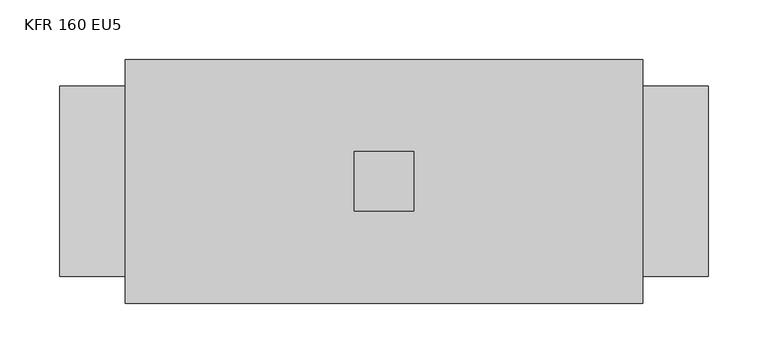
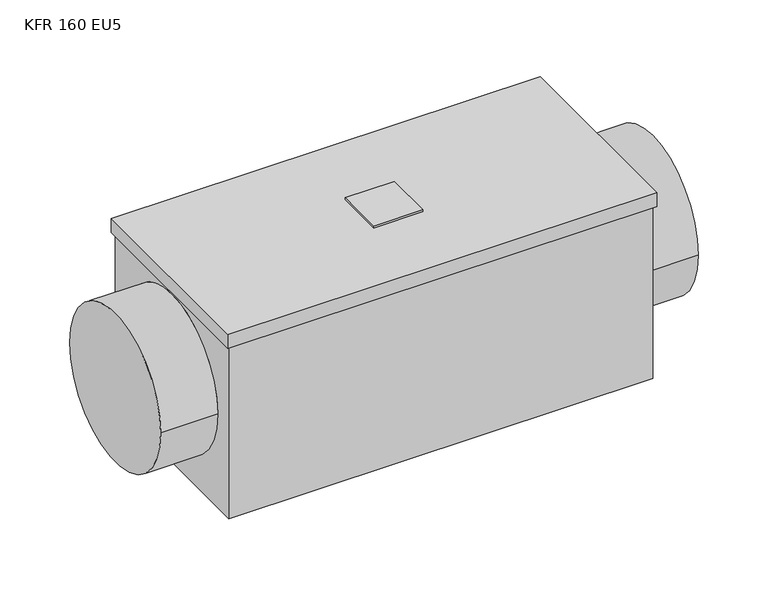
"""IFC4 building model written with IfcOpenShell, lengths in millimetres: damper geometry, KORF_Фильтр_Карманный_Круглый_KFR : KFR 160 EU5."""

from ifc_helpers import new_model, si_unit, frame, origin, place, context, project, spatial, polyline, circle_curve, outline, extrude, source, transform, mapped, element, save
from ifc_brep_helpers import plane_surface, cylinder_surface, advanced_brep


def kfr_160_eu5_75ced821(model_context):
    return source(origin(), model_context, "Body", "SolidModel", [
        extrude(outline(polyline([(247.5, -25.0), (247.5, 25.0), (297.5, 25.0), (297.5, -25.0), (247.5, -25.0)])), frame((0.0, 0.0, 100.0), z_axis=(0.0, 0.0, 1.0), x_axis=(1.0, 0.0, 0.0)), (0.0, 0.0, 1.0), 2.0),
        advanced_brep(
        [(545.0, -80.0, 0.0), (545.0, 80.0, 0.0), (0.0, -80.0, 0.0), (0.0, 80.0, 0.0), (487.5, -80.0, 0.0), (487.5, 80.0, 0.0), (57.5, 80.0, 0.0), (57.5, -80.0, 0.0), (487.5, -100.0, -100.0), (487.5, 100.0, -100.0), (487.5, 100.0, 85.0), (487.5, -100.0, 85.0), (57.5, 100.0, -100.0), (57.5, -100.0, -100.0), (57.5, -100.0, 85.0), (57.5, 100.0, 85.0), (490.0, 102.5, 100.0), (55.0, 102.5, 100.0), (55.0, -102.5, 100.0), (490.0, -102.5, 100.0), (490.0, 102.5, 85.0), (490.0, -102.5, 85.0), (55.0, -102.5, 85.0), (55.0, 102.5, 85.0)],
        [
            (0, 1, circle_curve(frame((545.0, 0.0, 0.0), z_axis=(1.0, 0.0, 0.0), x_axis=(0.0, 1.0, 0.0)), 80.0)),
            (1, 0, circle_curve(frame((545.0, 0.0, 0.0), z_axis=(1.0, 0.0, 0.0), x_axis=(0.0, 1.0, 0.0)), 80.0)),
            (2, 3, circle_curve(frame((0.0, 0.0, 0.0), z_axis=(-1.0, 0.0, 0.0), x_axis=(0.0, 1.0, 0.0)), 80.0)),
            (3, 2, circle_curve(frame((0.0, 0.0, 0.0), z_axis=(-1.0, 0.0, 0.0), x_axis=(0.0, 1.0, 0.0)), 80.0)),
            (0, 4),
            (4, 5, circle_curve(frame((487.5, 0.0, 0.0), z_axis=(1.0, 0.0, 0.0), x_axis=(0.0, 1.0, 0.0)), 80.0)),
            (5, 1),
            (3, 6),
            (6, 7, circle_curve(frame((57.5, 0.0, 0.0), z_axis=(-1.0, 0.0, 0.0), x_axis=(0.0, 1.0, 0.0)), 80.0)),
            (7, 2),
            (5, 4, circle_curve(frame((487.5, 0.0, 0.0), z_axis=(1.0, 0.0, 0.0), x_axis=(0.0, 1.0, 0.0)), 80.0)),
            (7, 6, circle_curve(frame((57.5, 0.0, 0.0), z_axis=(-1.0, 0.0, 0.0), x_axis=(0.0, 1.0, 0.0)), 80.0)),
            (8, 9),
            (9, 10),
            (10, 11),
            (11, 8),
            (12, 13),
            (13, 14),
            (14, 15),
            (15, 12),
            (13, 8),
            (11, 14),
            (12, 9),
            (15, 10),
            (16, 17),
            (17, 18),
            (18, 19),
            (19, 16),
            (20, 21),
            (21, 22),
            (22, 23),
            (23, 20),
            (16, 20),
            (23, 17),
            (22, 18),
            (21, 19),
        ],
        [
            plane_surface(frame((545.0, 80.0, 0.0), z_axis=(1.0, 0.0, 0.0), x_axis=(0.0, 0.0, 1.0))),
            plane_surface(frame((0.0, 80.0, 0.0), z_axis=(-1.0, 0.0, 0.0), x_axis=(0.0, 0.0, -1.0))),
            cylinder_surface(frame((0.0, 0.0, 0.0), z_axis=(1.0, 0.0, 0.0), x_axis=(0.0, 1.0, 0.0)), 80.0),
            plane_surface(frame((487.5, -100.0, 100.0), z_axis=(1.0, 0.0, 0.0), x_axis=(0.0, 0.0, -1.0))),
            plane_surface(frame((57.5, -100.0, 100.0), z_axis=(-1.0, 0.0, 0.0), x_axis=(0.0, 0.0, 1.0))),
            plane_surface(frame((487.5, -100.0, 100.0), z_axis=(0.0, -1.0, 0.0), x_axis=(-1.0, 0.0, 0.0))),
            plane_surface(frame((487.5, -100.0, -100.0), z_axis=(0.0, 0.0, -1.0), x_axis=(-1.0, 0.0, 0.0))),
            plane_surface(frame((487.5, 100.0, -100.0), z_axis=(0.0, 1.0, 0.0), x_axis=(-1.0, 0.0, 0.0))),
            plane_surface(frame((487.5, 100.0, 100.0), z_axis=(0.0, 0.0, 1.0), x_axis=(-1.0, 0.0, 0.0))),
            plane_surface(frame((55.0, 102.5, 85.0), z_axis=(0.0, 0.0, -1.0), x_axis=(1.0, 0.0, 0.0))),
            plane_surface(frame((490.0, 102.5, 100.0), z_axis=(0.0, 1.0, 0.0), x_axis=(0.0, 0.0, -1.0))),
            plane_surface(frame((55.0, 102.5, 100.0), z_axis=(-1.0, 0.0, 0.0), x_axis=(0.0, 0.0, -1.0))),
            plane_surface(frame((55.0, -102.5, 100.0), z_axis=(0.0, -1.0, 0.0), x_axis=(0.0, 0.0, -1.0))),
            plane_surface(frame((490.0, -102.5, 100.0), z_axis=(1.0, 0.0, 0.0), x_axis=(0.0, 0.0, -1.0))),
        ],
        [
            (0, [[1, 2]]),
            (1, [[3, 4]]),
            (2, [[-1, 5, 6, 7]]),
            (2, [[-4, 8, 9, 10]]),
            (2, [[-2, -7, 11, -5]]),
            (2, [[-3, -10, 12, -8]]),
            (3, [[13, 14, 15, 16], [-6, -11]]),
            (4, [[17, 18, 19, 20], [-9, -12]]),
            (5, [[21, -16, 22, -18]]),
            (6, [[-13, -21, -17, 23]]),
            (7, [[-23, -20, 24, -14]]),
            (8, [[25, 26, 27, 28]]),
            (9, [[29, 30, 31, 32], [-15, -24, -19, -22]]),
            (10, [[-25, 33, -32, 34]]),
            (11, [[-26, -34, -31, 35]]),
            (12, [[-27, -35, -30, 36]]),
            (13, [[-28, -36, -29, -33]]),
        ],
    ),
    ])


if __name__ == "__main__":
    model = new_model("IFC4")
    model_context = context("Model", 3, world=origin())
    ifc_project = project(units=[si_unit("LENGTHUNIT", "METRE", prefix="MILLI")], contexts=[model_context])
    site = spatial("IfcSite", under=ifc_project)
    building = spatial("IfcBuilding", under=site)
    placement = place(None, origin())
    kfr_160_eu5_shape = kfr_160_eu5_75ced821(model_context)
    element("IfcDamper", 1, ObjectType="KORF_Фильтр_Карманный_Круглый_KFR : KFR 160 EU5", at=placement, inside=building, context=model_context, shape_type="MappedRepresentation", body=[
        mapped(kfr_160_eu5_shape, transform((0.0, 0.0, 0.0), x_axis=(1.0, 0.0, 0.0), y_axis=(0.0, 1.0, 0.0), z_axis=(0.0, 0.0, 1.0))),
    ])
    save(model, "model.ifc")
